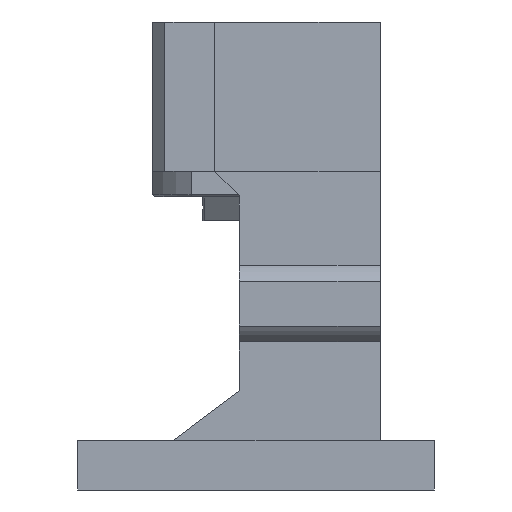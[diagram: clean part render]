
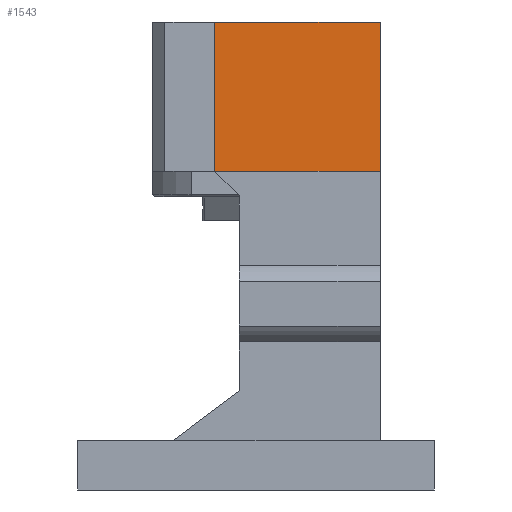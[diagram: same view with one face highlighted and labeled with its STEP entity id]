
A CAD part, left-side view. The second image highlights one B-rep face of the part: STEP entity #1543.
In plain terms, the highlighted planar face has unit normal (-1, 0, 0).
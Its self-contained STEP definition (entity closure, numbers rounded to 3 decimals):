
#9 = VERTEX_POINT ( 'NONE', #4098 ) ;
#107 = VECTOR ( 'NONE', #5049, 1000. ) ;
#467 = CARTESIAN_POINT ( 'NONE',  ( -44., 10., 6. ) ) ;
#569 = CARTESIAN_POINT ( 'NONE',  ( -44., 10., -30. ) ) ;
#605 = EDGE_CURVE ( 'NONE', #6453, #1714, #2102, .T. ) ;
#1373 = VERTEX_POINT ( 'NONE', #5447 ) ;
#1433 = LINE ( 'NONE', #6916, #7227 ) ;
#1543 = ADVANCED_FACE ( 'NONE', ( #4135 ), #3304, .T. ) ;
#1599 = VECTOR ( 'NONE', #2725, 1000. ) ;
#1714 = VERTEX_POINT ( 'NONE', #3965 ) ;
#1726 = EDGE_CURVE ( 'NONE', #6453, #1373, #3249, .T. ) ;
#1924 = ORIENTED_EDGE ( 'NONE', *, *, #1726, .F. ) ;
#2060 = DIRECTION ( 'NONE',  ( -1., 0., 0. ) ) ;
#2102 = LINE ( 'NONE', #6239, #6573 ) ;
#2655 = ORIENTED_EDGE ( 'NONE', *, *, #7123, .F. ) ;
#2725 = DIRECTION ( 'NONE',  ( 0., -1., 0. ) ) ;
#3249 = LINE ( 'NONE', #569, #107 ) ;
#3304 = PLANE ( 'NONE',  #3854 ) ;
#3783 = EDGE_LOOP ( 'NONE', ( #5329, #2655, #1924, #4419 ) ) ;
#3854 = AXIS2_PLACEMENT_3D ( 'NONE', #4297, #2060, #5981 ) ;
#3965 = CARTESIAN_POINT ( 'NONE',  ( -44., -30., -30. ) ) ;
#4098 = CARTESIAN_POINT ( 'NONE',  ( -44., -30., 6. ) ) ;
#4135 = FACE_OUTER_BOUND ( 'NONE', #3783, .T. ) ;
#4297 = CARTESIAN_POINT ( 'NONE',  ( -44., 10., -30. ) ) ;
#4419 = ORIENTED_EDGE ( 'NONE', *, *, #605, .T. ) ;
#4583 = LINE ( 'NONE', #467, #1599 ) ;
#5049 = DIRECTION ( 'NONE',  ( 0., 0., 1. ) ) ;
#5329 = ORIENTED_EDGE ( 'NONE', *, *, #5609, .T. ) ;
#5447 = CARTESIAN_POINT ( 'NONE',  ( -44., 10., 6. ) ) ;
#5609 = EDGE_CURVE ( 'NONE', #1714, #9, #1433, .T. ) ;
#5713 = CARTESIAN_POINT ( 'NONE',  ( -44., 10., -30. ) ) ;
#5981 = DIRECTION ( 'NONE',  ( 0., 0., 1. ) ) ;
#6040 = DIRECTION ( 'NONE',  ( 0., -1., 0. ) ) ;
#6239 = CARTESIAN_POINT ( 'NONE',  ( -44., 10., -30. ) ) ;
#6364 = DIRECTION ( 'NONE',  ( 0., 0., 1. ) ) ;
#6453 = VERTEX_POINT ( 'NONE', #5713 ) ;
#6573 = VECTOR ( 'NONE', #6040, 1000. ) ;
#6916 = CARTESIAN_POINT ( 'NONE',  ( -44., -30., -30. ) ) ;
#7123 = EDGE_CURVE ( 'NONE', #1373, #9, #4583, .T. ) ;
#7227 = VECTOR ( 'NONE', #6364, 1000. ) ;
